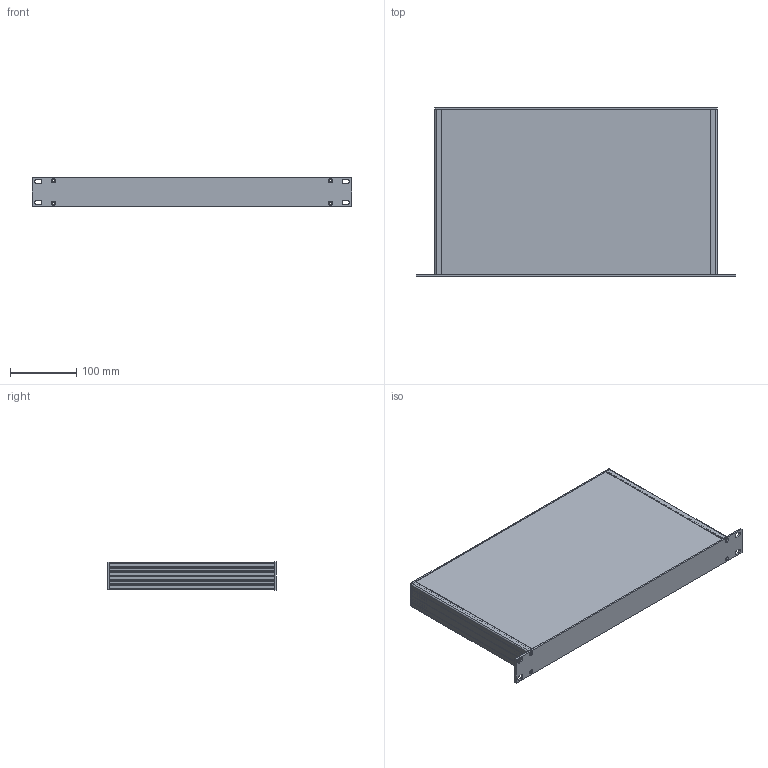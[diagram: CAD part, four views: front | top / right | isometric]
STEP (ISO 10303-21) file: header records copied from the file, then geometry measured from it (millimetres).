
FILE_DESCRIPTION(/* description */ (''),/* implementation_level */ '2;1');
FILE_NAME(/* name */ '//diskstation/Kunden/Gehäuse/Gehäuse/1HE/step/250.step',/* time_stamp */ '2022-02-17T15:25:43+01:00',/* author */ (''),/* organization */ (''),/* preprocessor_version */ 'ST-DEVELOPER v18.1',/* originating_system */ 'Autodesk Translation Framework v10.10.0.1391',/* authorisation */ '');
FILE_SCHEMA (('AUTOMOTIVE_DESIGN { 1 0 10303 214 3 1 1 }'));
Length unit declared in the file: millimetre
Products named in the file (7): 1HE Gehäuse mit Parameter (Seitenteilprofil); Frontplatte; Gehäuse; Seitenteilprofil; Rückplatte; Deckel; Bodenplatte
Assembly tree (7 placements, depth 3):
  1HE Gehäuse mit Parameter (Seitenteilprofil)
    Frontplatte
    Gehäuse
      Seitenteilprofil  x2
      Rückplatte
      Deckel
      Bodenplatte
Bounding box: 483 x 255 x 43.6 mm (x, y, z)
Volume: 692763.1 mm3; surface area: 590476.1 mm2
Topology: 6 solids, 6 shells, 252 faces, 712 edges, 472 vertices
Faces by surface type: plane 158, cylinder 86, cone 8
Full cylindrical faces by diameter (mm): 3 x4, 3.2 x8
Entity records: 5633 total; most frequent: CARTESIAN_POINT 956, DIRECTION 952, ORIENTED_EDGE 932, EDGE_CURVE 466, LINE 344, VECTOR 344, VERTEX_POINT 308, AXIS2_PLACEMENT_3D 304
